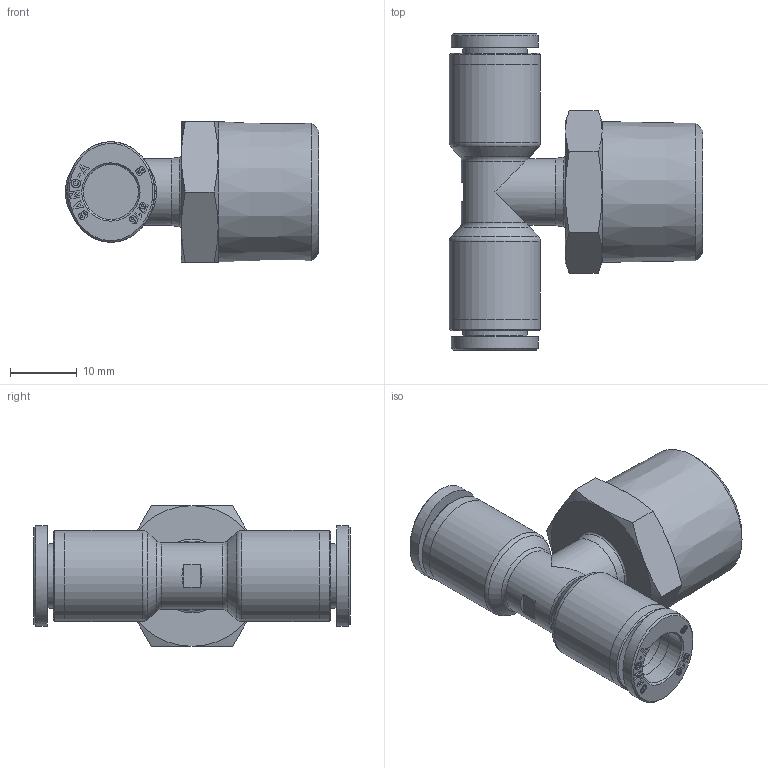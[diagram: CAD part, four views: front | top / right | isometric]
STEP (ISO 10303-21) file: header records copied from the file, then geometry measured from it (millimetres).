
FILE_DESCRIPTION((''),'2;1');
FILE_NAME('C:\Users\user0117\Desktop\김진일\G-FITTING INCH\5-16\G-FITTING INCH (STEP)\GPT 5_16-R04.stp','2020-05-04T16:36:56',('user0117'),(''),'Autodesk Inventor 2013','Autodesk Inventor 2013','');
FILE_SCHEMA(('AUTOMOTIVE_DESIGN { 1 0 10303 214 1 1 1 1 }'));
Length unit declared in the file: millimetre
Products named in the file (6): GPT 5_16-R04; GPL BODY 0804; GPT BODY-08(PLASTIC); G-COLLAR 5-16L; COLLAR G08L; SLEEVE G08
Assembly tree (6 placements, depth 3):
  GPT 5_16-R04
    GPL BODY 0804
    GPT BODY-08(PLASTIC)
    G-COLLAR 5-16L  x2
      COLLAR G08L
      SLEEVE G08
Bounding box: 37.8 x 47.2 x 21 mm (x, y, z)
Volume: 9511.6 mm3; surface area: 7189 mm2
Topology: 6 solids, 6 shells, 795 faces, 2208 edges, 1465 vertices
Faces by surface type: plane 695, bspline 40, cylinder 30, cone 25, torus 5
Full cylindrical faces by diameter (mm): 5.5 x1, 6 x1, 8.2 x6, 8.8 x1, 9.6 x2, 10 x1, 13.5 x1, 13.6 x4
Entity records: 13536 total; most frequent: CARTESIAN_POINT 2818, ORIENTED_EDGE 2242, DIRECTION 2031, EDGE_CURVE 1121, VECTOR 985, LINE 985, VERTEX_POINT 757, AXIS2_PLACEMENT_3D 523
